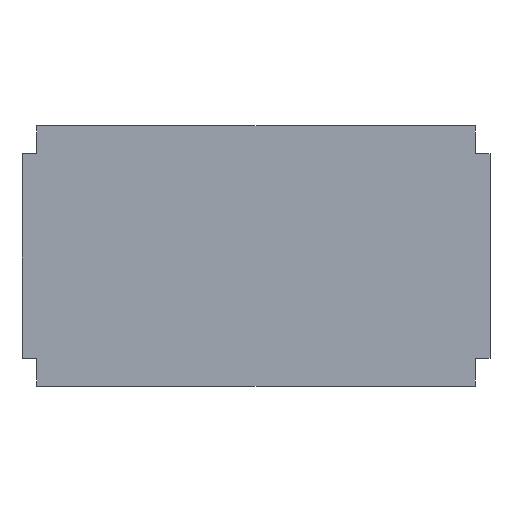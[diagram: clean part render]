
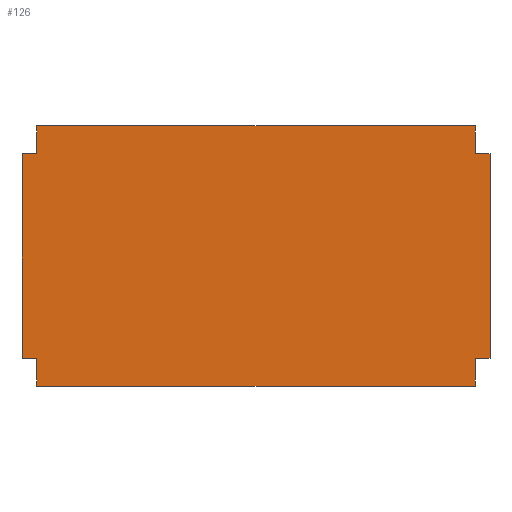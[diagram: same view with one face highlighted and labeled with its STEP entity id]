
A CAD part, top view. The second image highlights one B-rep face of the part: STEP entity #126.
In plain terms, the highlighted planar face has unit normal (0, 0, 1).
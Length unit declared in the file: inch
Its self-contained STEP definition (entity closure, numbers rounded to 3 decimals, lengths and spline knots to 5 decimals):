
#7 = CARTESIAN_POINT ( 'NONE',  ( 0., -0.475, 0.125 ) ) ;
#9 = VERTEX_POINT ( 'NONE', #405 ) ;
#15 = VERTEX_POINT ( 'NONE', #7 ) ;
#18 = CARTESIAN_POINT ( 'NONE',  ( 7.5, -4.45, 0.125 ) ) ;
#20 = DIRECTION ( 'NONE',  ( 0., -1., 0. ) ) ;
#22 = CARTESIAN_POINT ( 'NONE',  ( 0., -4.45, 0.125 ) ) ;
#30 = DIRECTION ( 'NONE',  ( 1., 0., 0. ) ) ;
#32 = CARTESIAN_POINT ( 'NONE',  ( 0., 0., 0.125 ) ) ;
#33 = VERTEX_POINT ( 'NONE', #18 ) ;
#42 = EDGE_CURVE ( 'NONE', #33, #324, #92, .T. ) ;
#43 = CARTESIAN_POINT ( 'NONE',  ( 7.5, -3.975, 0.125 ) ) ;
#45 = VERTEX_POINT ( 'NONE', #374 ) ;
#47 = ORIENTED_EDGE ( 'NONE', *, *, #480, .T. ) ;
#51 = LINE ( 'NONE', #407, #318 ) ;
#53 = PLANE ( 'NONE',  #239 ) ;
#58 = EDGE_CURVE ( 'NONE', #307, #427, #321, .T. ) ;
#61 = DIRECTION ( 'NONE',  ( 0., 1., 0. ) ) ;
#63 = VERTEX_POINT ( 'NONE', #482 ) ;
#65 = DIRECTION ( 'NONE',  ( -1., 0., 0. ) ) ;
#71 = CARTESIAN_POINT ( 'NONE',  ( 7.75, -0.475, 0.125 ) ) ;
#75 = EDGE_CURVE ( 'NONE', #427, #494, #51, .T. ) ;
#92 = LINE ( 'NONE', #289, #252 ) ;
#98 = CARTESIAN_POINT ( 'NONE',  ( 0., 0., 0.125 ) ) ;
#102 = ORIENTED_EDGE ( 'NONE', *, *, #415, .T. ) ;
#103 = DIRECTION ( 'NONE',  ( 0., -1., 0. ) ) ;
#111 = CARTESIAN_POINT ( 'NONE',  ( -0.25, -0.475, 0.125 ) ) ;
#114 = LINE ( 'NONE', #485, #261 ) ;
#120 = LINE ( 'NONE', #317, #123 ) ;
#121 = VECTOR ( 'NONE', #140, 39.37008 ) ;
#123 = VECTOR ( 'NONE', #61, 39.37008 ) ;
#124 = CARTESIAN_POINT ( 'NONE',  ( -0.25, -3.975, 0.125 ) ) ;
#126 = ADVANCED_FACE ( 'NONE', ( #362 ), #53, .T. ) ;
#127 = CARTESIAN_POINT ( 'NONE',  ( -0.25, -0.475, 0.125 ) ) ;
#140 = DIRECTION ( 'NONE',  ( -1., 0., 0. ) ) ;
#150 = EDGE_LOOP ( 'NONE', ( #184, #336, #339, #467, #224, #47, #393, #334, #310, #369, #102, #481 ) ) ;
#163 = LINE ( 'NONE', #218, #214 ) ;
#167 = VERTEX_POINT ( 'NONE', #111 ) ;
#169 = DIRECTION ( 'NONE',  ( 1., 0., 0. ) ) ;
#175 = LINE ( 'NONE', #460, #121 ) ;
#179 = DIRECTION ( 'NONE',  ( 0., 0., 1. ) ) ;
#184 = ORIENTED_EDGE ( 'NONE', *, *, #473, .T. ) ;
#199 = VECTOR ( 'NONE', #402, 39.37008 ) ;
#203 = EDGE_CURVE ( 'NONE', #9, #324, #175, .T. ) ;
#211 = EDGE_CURVE ( 'NONE', #63, #45, #265, .T. ) ;
#214 = VECTOR ( 'NONE', #255, 39.37008 ) ;
#218 = CARTESIAN_POINT ( 'NONE',  ( 0., 0., 0.125 ) ) ;
#220 = CARTESIAN_POINT ( 'NONE',  ( -0.25, -0.475, 0.125 ) ) ;
#224 = ORIENTED_EDGE ( 'NONE', *, *, #75, .T. ) ;
#239 = AXIS2_PLACEMENT_3D ( 'NONE', #98, #179, #30 ) ;
#252 = VECTOR ( 'NONE', #291, 39.37008 ) ;
#254 = EDGE_CURVE ( 'NONE', #63, #9, #114, .T. ) ;
#255 = DIRECTION ( 'NONE',  ( 0., -1., 0. ) ) ;
#261 = VECTOR ( 'NONE', #103, 39.37008 ) ;
#262 = EDGE_CURVE ( 'NONE', #167, #307, #412, .T. ) ;
#265 = LINE ( 'NONE', #71, #471 ) ;
#266 = VERTEX_POINT ( 'NONE', #277 ) ;
#277 = CARTESIAN_POINT ( 'NONE',  ( 7.5, 0., 0.125 ) ) ;
#284 = CARTESIAN_POINT ( 'NONE',  ( 0., -3.975, 0.125 ) ) ;
#289 = CARTESIAN_POINT ( 'NONE',  ( 7.5, 0., 0.125 ) ) ;
#291 = DIRECTION ( 'NONE',  ( 0., 1., 0. ) ) ;
#307 = VERTEX_POINT ( 'NONE', #124 ) ;
#310 = ORIENTED_EDGE ( 'NONE', *, *, #254, .F. ) ;
#314 = DIRECTION ( 'NONE',  ( -1., 0., 0. ) ) ;
#317 = CARTESIAN_POINT ( 'NONE',  ( 7.5, 0., 0.125 ) ) ;
#318 = VECTOR ( 'NONE', #447, 39.37008 ) ;
#321 = LINE ( 'NONE', #441, #387 ) ;
#324 = VERTEX_POINT ( 'NONE', #43 ) ;
#334 = ORIENTED_EDGE ( 'NONE', *, *, #203, .F. ) ;
#336 = ORIENTED_EDGE ( 'NONE', *, *, #439, .F. ) ;
#337 = DIRECTION ( 'NONE',  ( 1., 0., 0. ) ) ;
#339 = ORIENTED_EDGE ( 'NONE', *, *, #262, .T. ) ;
#362 = FACE_OUTER_BOUND ( 'NONE', #150, .T. ) ;
#369 = ORIENTED_EDGE ( 'NONE', *, *, #211, .T. ) ;
#374 = CARTESIAN_POINT ( 'NONE',  ( 7.5, -0.475, 0.125 ) ) ;
#375 = LINE ( 'NONE', #22, #409 ) ;
#387 = VECTOR ( 'NONE', #169, 39.37008 ) ;
#393 = ORIENTED_EDGE ( 'NONE', *, *, #42, .T. ) ;
#402 = DIRECTION ( 'NONE',  ( 1., 0., 0. ) ) ;
#405 = CARTESIAN_POINT ( 'NONE',  ( 7.75, -3.975, 0.125 ) ) ;
#406 = EDGE_CURVE ( 'NONE', #266, #413, #429, .T. ) ;
#407 = CARTESIAN_POINT ( 'NONE',  ( 0., 0., 0.125 ) ) ;
#409 = VECTOR ( 'NONE', #337, 39.37008 ) ;
#412 = LINE ( 'NONE', #220, #436 ) ;
#413 = VERTEX_POINT ( 'NONE', #469 ) ;
#415 = EDGE_CURVE ( 'NONE', #45, #266, #120, .T. ) ;
#427 = VERTEX_POINT ( 'NONE', #284 ) ;
#429 = LINE ( 'NONE', #32, #457 ) ;
#436 = VECTOR ( 'NONE', #20, 39.37008 ) ;
#439 = EDGE_CURVE ( 'NONE', #167, #15, #448, .T. ) ;
#441 = CARTESIAN_POINT ( 'NONE',  ( -0.25, -3.975, 0.125 ) ) ;
#447 = DIRECTION ( 'NONE',  ( 0., -1., 0. ) ) ;
#448 = LINE ( 'NONE', #127, #199 ) ;
#457 = VECTOR ( 'NONE', #314, 39.37008 ) ;
#460 = CARTESIAN_POINT ( 'NONE',  ( 7.75, -3.975, 0.125 ) ) ;
#467 = ORIENTED_EDGE ( 'NONE', *, *, #58, .T. ) ;
#469 = CARTESIAN_POINT ( 'NONE',  ( 0., 0., 0.125 ) ) ;
#471 = VECTOR ( 'NONE', #65, 39.37008 ) ;
#473 = EDGE_CURVE ( 'NONE', #413, #15, #163, .T. ) ;
#480 = EDGE_CURVE ( 'NONE', #494, #33, #375, .T. ) ;
#481 = ORIENTED_EDGE ( 'NONE', *, *, #406, .T. ) ;
#482 = CARTESIAN_POINT ( 'NONE',  ( 7.75, -0.475, 0.125 ) ) ;
#483 = CARTESIAN_POINT ( 'NONE',  ( 0., -4.45, 0.125 ) ) ;
#485 = CARTESIAN_POINT ( 'NONE',  ( 7.75, -0.475, 0.125 ) ) ;
#494 = VERTEX_POINT ( 'NONE', #483 ) ;
